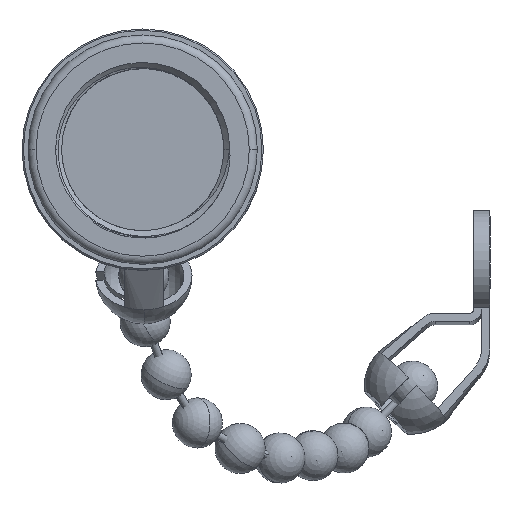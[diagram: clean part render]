
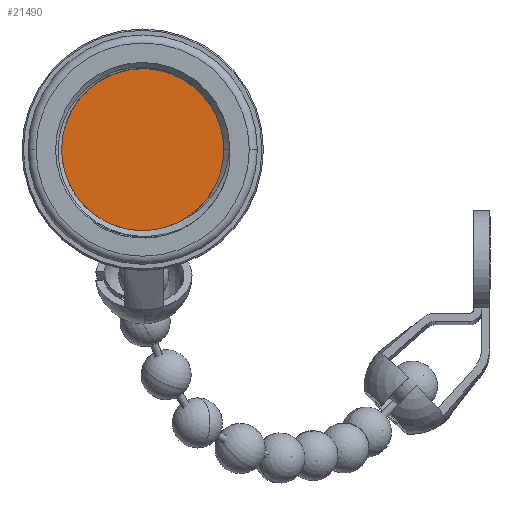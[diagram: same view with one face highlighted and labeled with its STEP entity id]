
A CAD part, top view. The second image highlights one B-rep face of the part: STEP entity #21490.
In plain terms, the highlighted planar face has unit normal (0, 0, 1).
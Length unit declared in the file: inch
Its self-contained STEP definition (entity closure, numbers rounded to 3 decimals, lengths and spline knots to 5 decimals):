
#285 = CARTESIAN_POINT ( 'NONE',  ( 0., 0., -0.42727 ) ) ;
#430 = CARTESIAN_POINT ( 'NONE',  ( 0., 0., -0.42727 ) ) ;
#896 = ORIENTED_EDGE ( 'NONE', *, *, #21236, .T. ) ;
#2019 = AXIS2_PLACEMENT_3D ( 'NONE', #20685, #15774, #23055 ) ;
#2780 = DIRECTION ( 'NONE',  ( -1., 0., 0. ) ) ;
#3259 = FACE_OUTER_BOUND ( 'NONE', #16457, .T. ) ;
#7215 = CARTESIAN_POINT ( 'NONE',  ( 0.225, 0., -0.42727 ) ) ;
#10228 = PLANE ( 'NONE',  #11606 ) ;
#11606 = AXIS2_PLACEMENT_3D ( 'NONE', #430, #20184, #2780 ) ;
#15774 = DIRECTION ( 'NONE',  ( 0., 0., 1. ) ) ;
#16457 = EDGE_LOOP ( 'NONE', ( #24703, #896 ) ) ;
#20102 = CIRCLE ( 'NONE', #22625, 0.225 ) ;
#20184 = DIRECTION ( 'NONE',  ( 0., 0., -1. ) ) ;
#20685 = CARTESIAN_POINT ( 'NONE',  ( 0., 0., -0.42727 ) ) ;
#21236 = EDGE_CURVE ( 'NONE', #22760, #26430, #23226, .T. ) ;
#21490 = ADVANCED_FACE ( 'NONE', ( #3259 ), #10228, .F. ) ;
#22100 = DIRECTION ( 'NONE',  ( 0., 0., 1. ) ) ;
#22625 = AXIS2_PLACEMENT_3D ( 'NONE', #285, #22100, #24160 ) ;
#22760 = VERTEX_POINT ( 'NONE', #27883 ) ;
#23055 = DIRECTION ( 'NONE',  ( 1., 0., 0. ) ) ;
#23226 = CIRCLE ( 'NONE', #2019, 0.225 ) ;
#24160 = DIRECTION ( 'NONE',  ( 1., 0., 0. ) ) ;
#24703 = ORIENTED_EDGE ( 'NONE', *, *, #26747, .T. ) ;
#26430 = VERTEX_POINT ( 'NONE', #7215 ) ;
#26747 = EDGE_CURVE ( 'NONE', #26430, #22760, #20102, .T. ) ;
#27883 = CARTESIAN_POINT ( 'NONE',  ( -0.225, 0., -0.42727 ) ) ;
